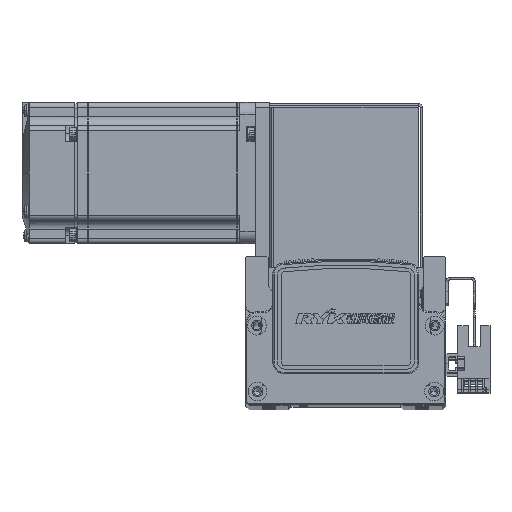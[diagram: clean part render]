
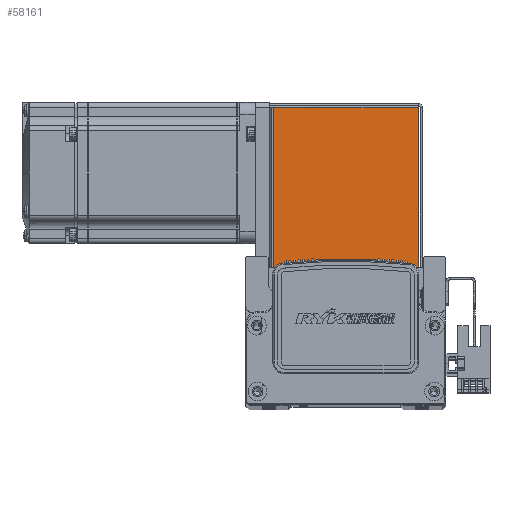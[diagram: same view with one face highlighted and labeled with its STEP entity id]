
A CAD part, top view. The second image highlights one B-rep face of the part: STEP entity #58161.
In plain terms, the highlighted planar face has unit normal (0, 0, 1).
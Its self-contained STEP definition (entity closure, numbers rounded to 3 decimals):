
#2720 = FACE_OUTER_BOUND ( 'NONE', #48305, .T. ) ;
#15964 = DIRECTION ( 'NONE',  ( -1., 0., 0. ) ) ;
#15999 = DIRECTION ( 'NONE',  ( 0., 0., -1. ) ) ;
#16014 = PLANE ( 'NONE',  #17915 ) ;
#16018 = CARTESIAN_POINT ( 'NONE',  ( 0., 0., 35. ) ) ;
#17915 = AXIS2_PLACEMENT_3D ( 'NONE', #16018, #15999, #15964 ) ;
#18544 = EDGE_CURVE ( 'NONE', #29828, #29888, #36993, .T. ) ;
#18569 = EDGE_CURVE ( 'NONE', #29864, #29828, #37108, .T. ) ;
#18605 = EDGE_CURVE ( 'NONE', #29864, #29890, #37393, .T. ) ;
#18607 = EDGE_CURVE ( 'NONE', #29890, #29888, #37491, .T. ) ;
#29828 = VERTEX_POINT ( 'NONE', #31889 ) ;
#29864 = VERTEX_POINT ( 'NONE', #31911 ) ;
#29888 = VERTEX_POINT ( 'NONE', #31895 ) ;
#29890 = VERTEX_POINT ( 'NONE', #31990 ) ;
#31889 = CARTESIAN_POINT ( 'NONE',  ( 30.763, 68.5, 35. ) ) ;
#31895 = CARTESIAN_POINT ( 'NONE',  ( -30.793, 68.5, 35. ) ) ;
#31911 = CARTESIAN_POINT ( 'NONE',  ( 30.763, 0.737, 35. ) ) ;
#31990 = CARTESIAN_POINT ( 'NONE',  ( -30.793, 0.737, 35. ) ) ;
#35614 = DIRECTION ( 'NONE',  ( -1., 0., 0. ) ) ;
#35637 = CARTESIAN_POINT ( 'NONE',  ( 0., 68.5, 35. ) ) ;
#35691 = CARTESIAN_POINT ( 'NONE',  ( 30.763, 0.737, 35. ) ) ;
#35720 = DIRECTION ( 'NONE',  ( 0., 1., 0. ) ) ;
#36046 = CARTESIAN_POINT ( 'NONE',  ( -32.5, 0.737, 35. ) ) ;
#36081 = CARTESIAN_POINT ( 'NONE',  ( -30.793, 0., 35. ) ) ;
#36089 = DIRECTION ( 'NONE',  ( -1., 0., 0. ) ) ;
#36111 = DIRECTION ( 'NONE',  ( 0., 1., 0. ) ) ;
#36993 = LINE ( 'NONE', #35637, #37068 ) ;
#37068 = VECTOR ( 'NONE', #35614, 1000. ) ;
#37108 = LINE ( 'NONE', #35691, #37111 ) ;
#37111 = VECTOR ( 'NONE', #35720, 1000. ) ;
#37393 = LINE ( 'NONE', #36046, #37494 ) ;
#37396 = VECTOR ( 'NONE', #36111, 1000. ) ;
#37491 = LINE ( 'NONE', #36081, #37396 ) ;
#37494 = VECTOR ( 'NONE', #36089, 1000. ) ;
#48305 = EDGE_LOOP ( 'NONE', ( #70279, #70236, #70202, #70331 ) ) ;
#58161 = ADVANCED_FACE ( 'NONE', ( #2720 ), #16014, .F. ) ;
#70202 = ORIENTED_EDGE ( 'NONE', *, *, #18607, .F. ) ;
#70236 = ORIENTED_EDGE ( 'NONE', *, *, #18544, .T. ) ;
#70279 = ORIENTED_EDGE ( 'NONE', *, *, #18569, .T. ) ;
#70331 = ORIENTED_EDGE ( 'NONE', *, *, #18605, .F. ) ;
